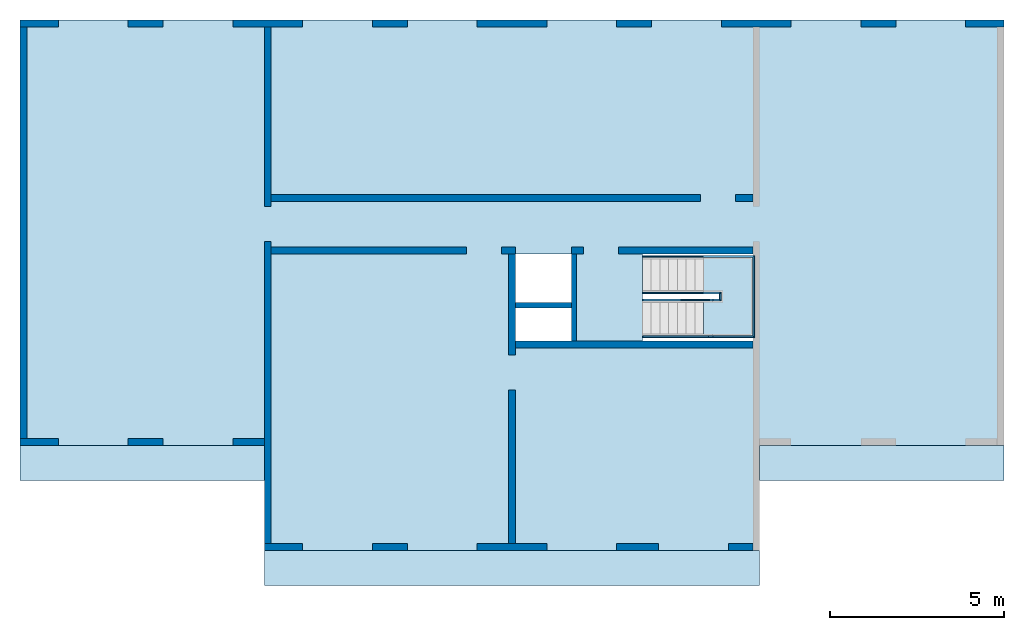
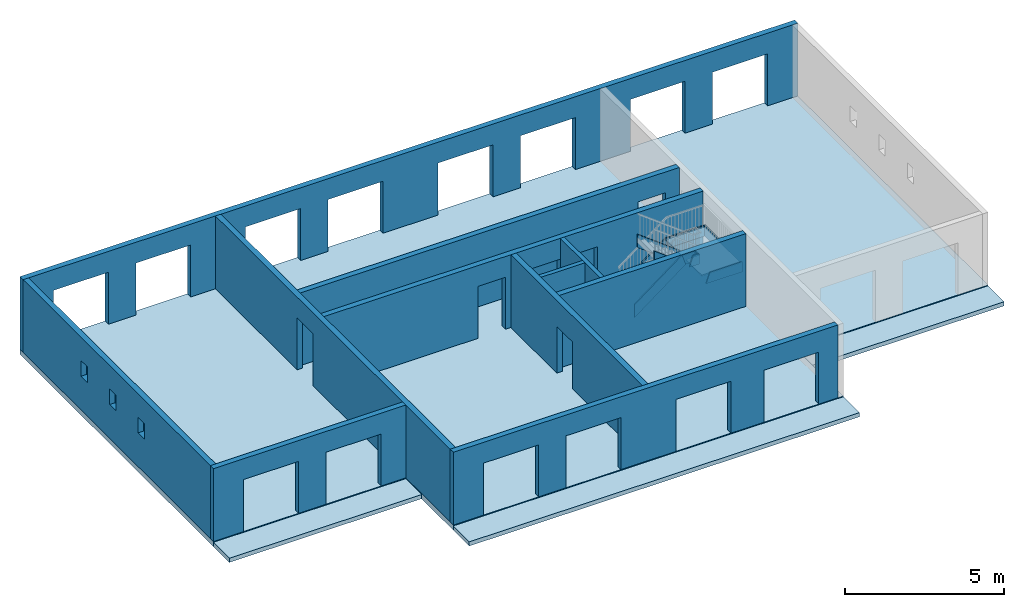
# One storey, part 1 of 3: 11 walls, 10 members, 3 slabs, 26 openings, 1 element without a shape of its own.
"""IFC2X3 building model written with IfcOpenShell, lengths in metres."""

from ifc_helpers import new_model, entity, si_unit, converted_unit, derived_unit, direction, frame, frame_2d, origin, origin_2d_with_axis, place, context, subcontext, project, spatial, polyline, rectangle, outline, extrude, faceted_brep, material, layer, layer_set, layer_usage, type_object, element, aggregate, save


model = new_model("IFC2X3")

# Units and contexts
model_context = context("Model", 3, precision=1e-05, world=origin(), true_north=direction((6.12303176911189e-17, 1.0)))
body_context = subcontext(model_context, "Body", "Model", "MODEL_VIEW")
ifc_project = project(units=[si_unit("LENGTHUNIT", "METRE"), si_unit("AREAUNIT", "SQUARE_METRE"), si_unit("VOLUMEUNIT", "CUBIC_METRE"), converted_unit("PLANEANGLEUNIT", "DEGREE", entity("IfcRatioMeasure", 0.0174532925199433), si_unit("PLANEANGLEUNIT", "RADIAN"), dimensions=[0, 0, 0, 0, 0, 0, 0]), si_unit("MASSUNIT", "GRAM", prefix="KILO"), derived_unit("MASSDENSITYUNIT", [(si_unit("MASSUNIT", "GRAM", prefix="KILO"), 1), (si_unit("LENGTHUNIT", "METRE"), -3)]), si_unit("TIMEUNIT", "SECOND"), si_unit("FREQUENCYUNIT", "HERTZ"), si_unit("THERMODYNAMICTEMPERATUREUNIT", "DEGREE_CELSIUS"), derived_unit("THERMALTRANSMITTANCEUNIT", [(si_unit("MASSUNIT", "GRAM", prefix="KILO"), 1), (si_unit("THERMODYNAMICTEMPERATUREUNIT", "KELVIN"), -1), (si_unit("TIMEUNIT", "SECOND"), -3)]), derived_unit("VOLUMETRICFLOWRATEUNIT", [(si_unit("LENGTHUNIT", "METRE"), 3), (si_unit("TIMEUNIT", "SECOND"), -1)]), si_unit("ELECTRICCURRENTUNIT", "AMPERE"), si_unit("ELECTRICVOLTAGEUNIT", "VOLT"), si_unit("POWERUNIT", "WATT"), si_unit("FORCEUNIT", "NEWTON"), si_unit("ILLUMINANCEUNIT", "LUX"), si_unit("LUMINOUSFLUXUNIT", "LUMEN"), si_unit("LUMINOUSINTENSITYUNIT", "CANDELA"), derived_unit("USERDEFINED", [(si_unit("MASSUNIT", "GRAM", prefix="KILO"), -1), (si_unit("LENGTHUNIT", "METRE"), -2), (si_unit("TIMEUNIT", "SECOND"), 3), (si_unit("LUMINOUSFLUXUNIT", "LUMEN"), 1)]), derived_unit("LINEARVELOCITYUNIT", [(si_unit("LENGTHUNIT", "METRE"), 1), (si_unit("TIMEUNIT", "SECOND"), -1)]), si_unit("PRESSUREUNIT", "PASCAL"), derived_unit("USERDEFINED", [(si_unit("LENGTHUNIT", "METRE"), -2), (si_unit("MASSUNIT", "GRAM", prefix="KILO"), 1), (si_unit("TIMEUNIT", "SECOND"), -2)])], contexts=[model_context])

# Site, building, storey
site_placement = place(None, origin())
site = spatial("IfcSite", under=ifc_project, at=site_placement, Name="Default", CompositionType="ELEMENT")
building_placement = place(site_placement, origin())
building = spatial("IfcBuilding", under=site, at=building_placement, CompositionType="ELEMENT")
storey_placement = place(building_placement, frame((0.0, 0.0, 9.0)))
storey = spatial("IfcBuildingStorey", under=building, at=storey_placement, Name="R+3", CompositionType="ELEMENT", Elevation=8.99999999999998)

# Stair, members
stair_placement = place(storey_placement, origin())
stair = element("IfcStair", 1, at=stair_placement, inside=storey, Name="Escalier assemblé:Escalier", ObjectType="Escalier assemblé:Contremarche 190 mm max marche 250\xa0mm", ShapeType="NOTDEFINED")
member_type = type_object("IfcMemberType", Name="Limon à la française:Limon à la française - 50 mm de largeur", PredefinedType="STRINGER")
member_1_placement = place(stair_placement, origin())
member_1 = element("IfcMember", 2, at=member_1_placement, type_object=member_type, Name="Escalier assemblé:Escalier:468213 Stringer 1", ObjectType="Escalier assemblé:Contremarche 190 mm max marche 250\xa0mm", context=body_context, shape_type="SweptSolid", body=[
    extrude(outline(polyline([(-0.973212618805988, -0.200000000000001), (1.19067644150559, -0.200000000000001), (1.0569252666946, 0.199999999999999), (-1.27438908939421, 0.2), (-0.973212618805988, -0.200000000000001)])), frame((6.43043564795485, 2.2618101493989, 0.853112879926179), z_axis=(0.0, 1.0, 0.0), x_axis=(0.798870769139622, 0.0, 0.601502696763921)), (0.0, 0.0, 1.0), 0.05),
])
member_2_placement = place(stair_placement, origin())
member_2 = element("IfcMember", 3, at=member_2_placement, type_object=member_type, Name="Escalier assemblé:Escalier:468213 Stringer 2", ObjectType="Escalier assemblé:Contremarche 190 mm max marche 250\xa0mm", context=body_context, shape_type="SweptSolid", body=[
    extrude(outline(polyline([(-0.973212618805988, -0.2), (1.19067644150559, -0.2), (1.05692526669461, 0.2), (-1.27438908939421, 0.2), (-0.973212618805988, -0.2)])), frame((6.43043564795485, 1.2118101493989, 0.853112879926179), z_axis=(0.0, 1.0, 0.0), x_axis=(0.798870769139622, 0.0, 0.601502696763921)), (0.0, 0.0, 1.0), 0.0500000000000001),
])
member_3_placement = place(stair_placement, origin())
member_3 = element("IfcMember", 4, at=member_3_placement, type_object=member_type, Name="Escalier assemblé:Escalier:468213 Stringer 3", ObjectType="Escalier assemblé:Contremarche 190 mm max marche 250\xa0mm", context=body_context, shape_type="SweptSolid", body=[
    extrude(outline(polyline([(-1.2901377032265, -0.2), (1.0726738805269, -0.200000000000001), (1.37385035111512, 0.199999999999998), (-1.15638652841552, 0.199999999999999), (-1.2901377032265, -0.2)])), frame((6.50989234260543, -0.0381898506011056, 2.26487758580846), z_axis=(0.0, 1.0, 0.0), x_axis=(-0.798870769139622, 0.0, 0.60150269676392)), (0.0, 0.0, 1.0), 0.05),
])
member_4_placement = place(stair_placement, origin())
member_4 = element("IfcMember", 5, at=member_4_placement, type_object=member_type, Name="Escalier assemblé:Escalier:468213 Stringer 4", ObjectType="Escalier assemblé:Contremarche 190 mm max marche 250\xa0mm", context=body_context, shape_type="SweptSolid", body=[
    extrude(outline(polyline([(-1.2901377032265, -0.2), (1.0726738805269, -0.200000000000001), (1.37385035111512, 0.199999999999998), (-1.15638652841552, 0.199999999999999), (-1.2901377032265, -0.2)])), frame((6.50989234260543, 1.01181014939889, 2.26487758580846), z_axis=(0.0, 1.0, 0.0), x_axis=(-0.798870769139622, 0.0, 0.60150269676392)), (0.0, 0.0, 1.0), 0.05),
])
member_5_placement = place(stair_placement, frame((7.42024510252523, -0.0381898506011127, 1.32908212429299)))
member_5 = element("IfcMember", 6, at=member_5_placement, type_object=member_type, Name="Escalier assemblé:Escalier:468213 Stringer 5", ObjectType="Escalier assemblé:Contremarche 190 mm max marche 250\xa0mm", context=body_context, shape_type="Brep", body=[
    faceted_brep([(0.133751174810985, 0.0500000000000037, 0.4), (0.133751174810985, 0.0, 0.4), (1.32241889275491, 0.0, 0.4), (1.27241889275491, 0.0500000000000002, 0.4), (0.0, 0.0500000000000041, 0.0), (1.27241889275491, 0.0500000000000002, 0.0), (0.0, 0.0, 0.0), (1.32241889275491, 0.0, 0.0)], [[[0, 1, 2, 3]], [[4, 0, 3, 5]], [[6, 4, 5, 7]], [[1, 6, 7, 2]], [[1, 0, 4, 6]], [[2, 7, 5, 3]]]),
])
member_6_placement = place(stair_placement, origin())
member_6 = element("IfcMember", 7, at=member_6_placement, type_object=member_type, Name="Escalier assemblé:Escalier:468213 Stringer 6", ObjectType="Escalier assemblé:Contremarche 190 mm max marche 250\xa0mm", context=body_context, shape_type="SweptSolid", body=[
    extrude(outline(polyline([(-1.17500000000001, -0.0249999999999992), (1.17500000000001, -0.0249999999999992), (1.125, 0.0250000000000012), (-1.125, 0.0250000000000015), (-1.17500000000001, -0.0249999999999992)])), frame((8.71766399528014, 1.13681014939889, 1.32908212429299), z_axis=(0.0, 0.0, 1.0), x_axis=(0.0, 1.0, 0.0)), (0.0, 0.0, 1.0), 0.4),
])
member_7_placement = place(stair_placement, frame((7.26133171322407, 2.2618101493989, 1.32908212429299)))
member_7 = element("IfcMember", 8, at=member_7_placement, type_object=member_type, Name="Escalier assemblé:Escalier:468213 Stringer 7", ObjectType="Escalier assemblé:Contremarche 190 mm max marche 250\xa0mm", context=body_context, shape_type="Brep", body=[
    faceted_brep([(1.43133228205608, 0.0, 0.4), (1.48133228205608, 0.0499999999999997, 0.4), (0.0, 0.0500000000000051, 0.4), (0.0, 0.0, 0.4), (1.43133228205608, 0.0, 0.0), (0.133751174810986, 0.0, 0.0), (1.48133228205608, 0.0499999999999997, 0.0), (0.133751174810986, 0.0500000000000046, 0.0)], [[[0, 1, 2, 3]], [[4, 0, 3, 5]], [[6, 4, 5, 7]], [[1, 6, 7, 2]], [[1, 0, 4, 6]], [[2, 7, 5, 3]]]),
])
member_8_placement = place(stair_placement, frame((7.26133171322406, 1.2118101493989, 1.32908212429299)))
member_8 = element("IfcMember", 9, at=member_8_placement, type_object=member_type, Name="Escalier assemblé:Escalier:468213 Stringer 8", ObjectType="Escalier assemblé:Contremarche 190 mm max marche 250\xa0mm", context=body_context, shape_type="Brep", body=[
    faceted_brep([(0.0, 0.0500000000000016, 0.4), (0.0, 0.0, 0.4), (0.471332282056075, 0.0, 0.4), (0.521332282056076, 0.0499999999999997, 0.4), (0.133751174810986, 0.0500000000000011, 0.0), (0.521332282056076, 0.0499999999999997, 0.0), (0.133751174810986, 0.0, 0.0), (0.471332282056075, 0.0, 0.0)], [[[0, 1, 2, 3]], [[4, 0, 3, 5]], [[6, 4, 5, 7]], [[1, 6, 7, 2]], [[1, 0, 4, 6]], [[2, 7, 5, 3]]]),
])
member_9_placement = place(stair_placement, origin())
member_9 = element("IfcMember", 10, at=member_9_placement, type_object=member_type, Name="Escalier assemblé:Escalier:468213 Stringer 9", ObjectType="Escalier assemblé:Contremarche 190 mm max marche 250\xa0mm", context=body_context, shape_type="SweptSolid", body=[
    extrude(outline(polyline([(-0.0750000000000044, -0.0250000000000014), (0.0750000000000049, -0.0250000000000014), (0.125000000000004, 0.0249999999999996), (-0.125000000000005, 0.0249999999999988), (-0.0750000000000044, -0.0250000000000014)])), frame((7.75766399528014, 1.13681014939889, 1.32908212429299), z_axis=(0.0, 0.0, 1.0), x_axis=(0.0, -1.0, 0.0)), (0.0, 0.0, 1.0), 0.4),
])
member_10_placement = place(stair_placement, frame((7.42024510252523, 1.01181014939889, 1.32908212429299)))
member_10 = element("IfcMember", 11, at=member_10_placement, type_object=member_type, Name="Escalier assemblé:Escalier:468213 Stringer 10", ObjectType="Escalier assemblé:Contremarche 190 mm max marche 250\xa0mm", context=body_context, shape_type="Brep", body=[
    faceted_brep([(0.36241889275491, 0.0, 0.4), (0.31241889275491, 0.0500000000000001, 0.4), (0.133751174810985, 0.0500000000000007, 0.4), (0.133751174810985, 0.0, 0.4), (0.36241889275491, 0.0, 0.0), (0.0, 0.0, 0.0), (0.31241889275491, 0.0500000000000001, 0.0), (0.0, 0.0500000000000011, 0.0)], [[[0, 1, 2, 3]], [[4, 0, 3, 5]], [[6, 4, 5, 7]], [[1, 6, 7, 2]], [[1, 0, 4, 6]], [[2, 7, 5, 3]]]),
])

# Slab, openings
ifc_material_1 = material(Name="Béton - Coulé sur place - Béton20")
ifc_layer_1 = layer(ifc_material_1, 0.2)
ifc_layer_set_1 = layer_set([ifc_layer_1], Name="Sol:Dalle pleine 200 mm")
ifc_layer_usage_1 = layer_usage(ifc_layer_set_1, "AXIS3", "POSITIVE", 0.0)
slab_1_placement = place(storey_placement, frame((-12.3073360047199, -6.13818985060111, 0.0)))
slab_1 = element("IfcSlab", 12, at=slab_1_placement, inside=storey, material=ifc_layer_usage_1, Name="Sol:Dalle pleine 200 mm", ObjectType="Sol:Dalle pleine 200 mm", PredefinedType="FLOOR", context=body_context, shape_type="SweptSolid", body=[
    extrude(outline(polyline([(-14.1, 7.59999999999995), (-14.1, -4.60000000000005), (-7.1, -4.60000000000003), (-7.09999999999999, -7.60000000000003), (7.10000000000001, -7.59999999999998), (7.10000000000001, -4.59999999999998), (14.1, -4.59999999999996), (14.1, 7.60000000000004), (-14.1, 7.59999999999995)])), frame((14.1, 7.60000000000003, 0.199999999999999), z_axis=(0.0, 0.0, -1.0), x_axis=(-1.0, 0.0, 0.0)), (0.0, 0.0, 1.0), 0.2),
])
opening_1_placement = place(slab_1_placement, frame((15.0, 7.80000000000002, 0.2)))
element("IfcOpeningElement", 13, at=opening_1_placement, cuts=slab_1, Name="Sol:Dalle pleine 200 mm:2", ObjectType="Opening", context=body_context, shape_type="SweptSolid", body=[
    extrude(rectangle(XDim=1.4, YDim=1.6, at=origin_2d_with_axis()), frame((0.0, 0.0, 0.0), z_axis=(0.0, 0.0, -1.0), x_axis=(0.0, -1.0, 0.0)), (0.0, 0.0, 1.0), 0.2),
])
opening_2_placement = place(slab_1_placement, frame((15.0, 6.47500000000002, 0.2)))
element("IfcOpeningElement", 14, at=opening_2_placement, cuts=slab_1, Name="Sol:Dalle pleine 200 mm:3", ObjectType="Opening", context=body_context, shape_type="SweptSolid", body=[
    extrude(rectangle(XDim=0.95, YDim=1.6, at=origin_2d_with_axis()), frame((0.0, 0.0, 0.0), z_axis=(0.0, 0.0, -1.0), x_axis=(0.0, -1.0, 0.0)), (0.0, 0.0, 1.0), 0.2),
])
opening_3_placement = place(slab_1_placement, frame((19.42, 7.25, 0.2)))
element("IfcOpeningElement", 15, at=opening_3_placement, cuts=slab_1, Name="Sol:Dalle pleine 200 mm:4", ObjectType="Opening", context=body_context, shape_type="SweptSolid", body=[
    extrude(rectangle(XDim=3.16, YDim=2.49999999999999, at=origin_2d_with_axis()), frame((0.0, 0.0, 0.0), z_axis=(0.0, 0.0, -1.0), x_axis=(1.0, 0.0, 0.0)), (0.0, 0.0, 1.0), 0.2),
])

# Slab
ifc_layer_2 = layer(ifc_material_1, 0.16)
ifc_layer_set_2 = layer_set([ifc_layer_2], Name="Sol:Balcon 160 mm")
ifc_layer_usage_2 = layer_usage(ifc_layer_set_2, "AXIS3", "POSITIVE", 0.0)
slab_2_placement = place(storey_placement, origin())
element("IfcSlab", 16, at=slab_2_placement, inside=storey, material=ifc_layer_usage_2, Name="Sol:Balcon 160 mm", ObjectType="Sol:Balcon 160 mm", PredefinedType="FLOOR", context=body_context, shape_type="SweptSolid", body=[
    extrude(outline(polyline([(-0.0825000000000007, -0.5), (0.0874999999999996, -0.5), (0.0774999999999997, 0.5), (-0.0825000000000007, 0.5), (-0.0825000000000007, -0.5)])), frame((8.89266399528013, -3.63818985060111, 0.0824999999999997), z_axis=(1.0, 0.0, 0.0), x_axis=(0.0, 0.0, 1.0)), (0.0, 0.0, 1.0), 7.0),
    extrude(outline(polyline([(-0.0825000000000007, -0.5), (0.0874999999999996, -0.5), (0.0774999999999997, 0.5), (-0.0825000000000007, 0.5), (-0.0825000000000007, -0.5)])), frame((-12.3073360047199, -3.63818985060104, 0.0824999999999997), z_axis=(1.0, 0.0, 0.0), x_axis=(0.0, 0.0, 1.0)), (0.0, 0.0, 1.0), 7.0),
    extrude(outline(polyline([(-0.0824999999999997, -0.5), (0.0874999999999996, -0.5), (0.0774999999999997, 0.5), (-0.0824999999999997, 0.5), (-0.0824999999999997, -0.5)])), frame((-5.30733600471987, -6.63818985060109, 0.0824999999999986), z_axis=(1.0, 0.0, 0.0), x_axis=(0.0, 0.0, 1.0)), (0.0, 0.0, 1.0), 14.2),
])

slab_3_placement = place(stair_placement, origin())
slab_3 = element("IfcSlab", 17, at=slab_3_placement, Name="Escalier assemblé:Escalier:468213 Landing 1", ObjectType="Escalier assemblé:Contremarche 190 mm max marche 250\xa0mm", PredefinedType="LANDING", context=body_context, shape_type="SweptSolid", body=[
    extrude(outline(polyline([(-1.125, -0.477500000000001), (-0.125000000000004, -0.477500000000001), (-0.125000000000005, 0.0225000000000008), (0.125000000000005, 0.0225000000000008), (0.125000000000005, -0.477499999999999), (1.12500000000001, -0.477499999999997), (1.125, 0.932500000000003), (-1.12500000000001, 0.932500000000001), (-1.125, -0.477500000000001)])), frame((7.76016399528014, 1.1368101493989, 1.63235294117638), z_axis=(0.0, 0.0, 1.0), x_axis=(0.0, -1.0, 0.0)), (0.0, 0.0, 1.0), 0.0499999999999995),
])

aggregate(stair, [slab_3, member_1, member_2, member_3, member_4, member_5, member_6, member_7, member_8, member_9, member_10])

# Wall, openings
ifc_layer_3 = layer(ifc_material_1, 0.2)
ifc_layer_set_3 = layer_set([ifc_layer_3], Name="Mur de base:Générique - 200 mm")
ifc_layer_usage_3 = layer_usage(ifc_layer_set_3, "AXIS2", "NEGATIVE", 0.1)
wall_type_1 = type_object("IfcWallType", Name="Mur de base:Générique - 200 mm", PredefinedType="STANDARD", material=ifc_layer_set_3)
wall_1_placement = place(storey_placement, frame((-12.3073360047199, 8.96181014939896, 0.199999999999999)))
wall_1 = element("IfcWallStandardCase", 18, at=wall_1_placement, inside=storey, type_object=wall_type_1, material=ifc_layer_usage_3, Name="Mur de base:Générique - 200 mm", ObjectType="Mur de base:Générique - 200 mm:1044", context=body_context, shape_type="SweptSolid", body=[
    extrude(rectangle(XDim=28.2, YDim=0.2, at=frame_2d((14.1, 3.19189119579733e-16), x_axis=(-1.0, 0.0))), origin(), (0.0, 0.0, 1.0), 2.80000000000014),
])
opening_4_placement = place(wall_1_placement, frame((12.3073360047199, -8.96181014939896, -0.199999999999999)))
element("IfcOpeningElement", 19, at=opening_4_placement, cuts=wall_1, Name="Mur de base:Générique - 200 mm", ObjectType="Opening", context=body_context, shape_type="SweptSolid", body=[
    extrude(rectangle(XDim=2.0, YDim=2.0, at=origin_2d_with_axis()), frame((13.7926639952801, 7.53781014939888, 1.2), z_axis=(0.0, 1.0, 0.0), x_axis=(0.0, 0.0, -1.0)), (0.0, 0.0, 1.0), 3.048),
])
opening_5_placement = place(wall_1_placement, frame((12.3073360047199, -8.96181014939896, -0.199999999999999)))
element("IfcOpeningElement", 20, at=opening_5_placement, cuts=wall_1, Name="Mur de base:Générique - 200 mm", ObjectType="Opening", context=body_context, shape_type="SweptSolid", body=[
    extrude(rectangle(XDim=2.0, YDim=2.0, at=frame_2d((0.0, 0.0), x_axis=(0.0, 1.0))), frame((10.7926639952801, 7.33781014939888, 1.2), z_axis=(0.0, 1.0, 0.0), x_axis=(1.0, 0.0, 0.0)), (0.0, 0.0, 1.0), 3.048),
])
opening_6_placement = place(wall_1_placement, frame((12.3073360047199, -8.96181014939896, -0.199999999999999)))
element("IfcOpeningElement", 21, at=opening_6_placement, cuts=wall_1, Name="Mur de base:Générique - 200 mm", ObjectType="Opening", context=body_context, shape_type="SweptSolid", body=[
    extrude(rectangle(XDim=2.0, YDim=2.0, at=origin_2d_with_axis()), frame((-10.2073360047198, 7.53781014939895, 1.2), z_axis=(0.0, 1.0, 0.0), x_axis=(0.0, 0.0, -1.0)), (0.0, 0.0, 1.0), 3.048),
])
opening_7_placement = place(wall_1_placement, frame((12.3073360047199, -8.96181014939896, -0.199999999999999)))
element("IfcOpeningElement", 22, at=opening_7_placement, cuts=wall_1, Name="Mur de base:Générique - 200 mm", ObjectType="Opening", context=body_context, shape_type="SweptSolid", body=[
    extrude(rectangle(XDim=2.0, YDim=2.0, at=origin_2d_with_axis()), frame((-7.20733600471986, 7.53781014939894, 1.2), z_axis=(0.0, 1.0, 0.0), x_axis=(0.0, 0.0, -1.0)), (0.0, 0.0, 1.0), 3.048),
])
opening_8_placement = place(wall_1_placement, frame((12.3073360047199, -8.96181014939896, -0.199999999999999)))
element("IfcOpeningElement", 23, at=opening_8_placement, cuts=wall_1, Name="Mur de base:Générique - 200 mm", ObjectType="Opening", context=body_context, shape_type="SweptSolid", body=[
    extrude(rectangle(XDim=2.0, YDim=2.0, at=frame_2d((0.0, 2.22044604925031e-16), x_axis=(1.0, 0.0))), frame((-3.20733600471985, 7.53781014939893, 1.2), z_axis=(0.0, 1.0, 0.0), x_axis=(0.0, 0.0, -1.0)), (0.0, 0.0, 1.0), 3.048),
])
opening_9_placement = place(wall_1_placement, frame((12.3073360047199, -8.96181014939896, -0.199999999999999)))
element("IfcOpeningElement", 24, at=opening_9_placement, cuts=wall_1, Name="Mur de base:Générique - 200 mm", ObjectType="Opening", context=body_context, shape_type="SweptSolid", body=[
    extrude(rectangle(XDim=2.0, YDim=2.0, at=frame_2d((-4.9960036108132e-16, 0.0), x_axis=(0.0, 1.0))), frame((6.79266399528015, 7.3378101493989, 1.2), z_axis=(0.0, 1.0, 0.0), x_axis=(1.0, 0.0, 0.0)), (0.0, 0.0, 1.0), 3.048),
])
opening_10_placement = place(wall_1_placement, frame((12.3073360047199, -8.96181014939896, -0.199999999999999)))
element("IfcOpeningElement", 25, at=opening_10_placement, cuts=wall_1, Name="Mur de base:Générique - 200 mm", ObjectType="Opening", context=body_context, shape_type="SweptSolid", body=[
    extrude(rectangle(XDim=2.0, YDim=2.0, at=frame_2d((-2.22044604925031e-16, 0.0), x_axis=(0.0, 1.0))), frame((3.79266399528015, 7.33781014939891, 1.2), z_axis=(0.0, 1.0, 0.0), x_axis=(1.0, 0.0, 0.0)), (0.0, 0.0, 1.0), 3.048),
])
opening_11_placement = place(wall_1_placement, frame((12.3073360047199, -8.96181014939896, -0.199999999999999)))
element("IfcOpeningElement", 26, at=opening_11_placement, cuts=wall_1, Name="Mur de base:Générique - 200 mm", ObjectType="Opening", context=body_context, shape_type="SweptSolid", body=[
    extrude(rectangle(XDim=2.0, YDim=2.0, at=frame_2d((0.0, 0.0), x_axis=(0.0, 1.0))), frame((-0.207336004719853, 7.33781014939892, 1.2), z_axis=(0.0, 1.0, 0.0), x_axis=(1.0, 0.0, 0.0)), (0.0, 0.0, 1.0), 3.048),
])

ifc_layer_usage_4 = layer_usage(ifc_layer_set_3, "AXIS2", "NEGATIVE", 0.1)
wall_2_placement = place(storey_placement, frame((8.69266399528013, -6.03818985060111, 0.199999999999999), z_axis=(0.0, 0.0, 1.0), x_axis=(-1.0, 0.0, 0.0)))
wall_2 = element("IfcWallStandardCase", 27, at=wall_2_placement, inside=storey, type_object=wall_type_1, material=ifc_layer_usage_4, Name="Mur de base:Générique - 200 mm", ObjectType="Mur de base:Générique - 200 mm:1044", context=body_context, shape_type="SweptSolid", body=[
    extrude(rectangle(XDim=14.0, YDim=0.2, at=frame_2d((7.0, 0.0), x_axis=(-1.0, 0.0))), origin(), (0.0, 0.0, 1.0), 2.80000000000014),
])
opening_12_placement = place(wall_2_placement, frame((8.69266399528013, -6.03818985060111, -0.199999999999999), z_axis=(0.0, 0.0, 1.0), x_axis=(-1.0, 0.0, 0.0)))
element("IfcOpeningElement", 28, at=opening_12_placement, cuts=wall_2, Name="Mur de base:Générique - 200 mm", ObjectType="Opening", context=body_context, shape_type="SweptSolid", body=[
    extrude(rectangle(XDim=2.0, YDim=2.0, at=frame_2d((0.0, 1.11022302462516e-16), x_axis=(1.0, 0.0))), frame((-3.20733600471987, -4.61418985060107, 1.2), z_axis=(0.0, -1.0, 0.0), x_axis=(0.0, 0.0, -1.0)), (0.0, 0.0, 1.0), 3.048),
])
opening_13_placement = place(wall_2_placement, frame((8.69266399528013, -6.03818985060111, -0.199999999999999), z_axis=(0.0, 0.0, 1.0), x_axis=(-1.0, 0.0, 0.0)))
element("IfcOpeningElement", 29, at=opening_13_placement, cuts=wall_2, Name="Mur de base:Générique - 200 mm", ObjectType="Opening", context=body_context, shape_type="SweptSolid", body=[
    extrude(rectangle(XDim=2.0, YDim=2.0, at=origin_2d_with_axis()), frame((-0.207336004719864, -4.61418985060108, 1.2), z_axis=(0.0, -1.0, 0.0), x_axis=(0.0, 0.0, -1.0)), (0.0, 0.0, 1.0), 3.048),
])
opening_14_placement = place(wall_2_placement, frame((8.69266399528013, -6.03818985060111, -0.199999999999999), z_axis=(0.0, 0.0, 1.0), x_axis=(-1.0, 0.0, 0.0)))
element("IfcOpeningElement", 30, at=opening_14_placement, cuts=wall_2, Name="Mur de base:Générique - 200 mm", ObjectType="Opening", context=body_context, shape_type="SweptSolid", body=[
    extrude(rectangle(XDim=2.0, YDim=2.0, at=frame_2d((0.0, 2.22044604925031e-16), x_axis=(1.0, 0.0))), frame((3.79266399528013, -4.61418985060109, 1.2), z_axis=(0.0, -1.0, 0.0), x_axis=(0.0, 0.0, -1.0)), (0.0, 0.0, 1.0), 3.048),
])
opening_15_placement = place(wall_2_placement, frame((8.69266399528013, -6.03818985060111, -0.199999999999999), z_axis=(0.0, 0.0, 1.0), x_axis=(-1.0, 0.0, 0.0)))
element("IfcOpeningElement", 31, at=opening_15_placement, cuts=wall_2, Name="Mur de base:Générique - 200 mm", ObjectType="Opening", context=body_context, shape_type="SweptSolid", body=[
    extrude(rectangle(XDim=2.0, YDim=2.0, at=origin_2d_with_axis()), frame((6.99266399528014, -4.6141898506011, 1.2), z_axis=(0.0, -1.0, 0.0), x_axis=(0.0, 0.0, -1.0)), (0.0, 0.0, 1.0), 3.048),
])

# Wall, opening
ifc_layer_usage_5 = layer_usage(ifc_layer_set_3, "AXIS2", "NEGATIVE", 0.1)
wall_3_placement = place(storey_placement, frame((-5.20733600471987, -5.93818985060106, 0.199999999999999), z_axis=(0.0, 0.0, 1.0), x_axis=(0.0, 1.0, 0.0)))
wall_3 = element("IfcWallStandardCase", 32, at=wall_3_placement, inside=storey, type_object=wall_type_1, material=ifc_layer_usage_5, Name="Mur de base:Générique - 200 mm", ObjectType="Mur de base:Générique - 200 mm:1044", context=body_context, shape_type="SweptSolid", body=[
    extrude(rectangle(XDim=14.8, YDim=0.2, at=frame_2d((7.4, -1.66533453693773e-16), x_axis=(-1.0, 0.0))), origin(), (0.0, 0.0, 1.0), 2.80000000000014),
])
opening_16_placement = place(wall_3_placement, frame((5.93818985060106, -5.20733600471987, -0.199999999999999), z_axis=(0.0, 0.0, 1.0), x_axis=(0.0, -1.0, 0.0)))
element("IfcOpeningElement", 33, at=opening_16_placement, cuts=wall_3, Name="Mur de base:Générique - 200 mm", ObjectType="Opening", context=body_context, shape_type="SweptSolid", body=[
    extrude(rectangle(XDim=2.0, YDim=1.0, at=frame_2d((0.0, -2.4980018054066e-16), x_axis=(1.0, 0.0))), frame((-3.78333600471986, 3.21181014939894, 1.2), z_axis=(-1.0, 0.0, 0.0), x_axis=(0.0, 0.0, -1.0)), (0.0, 0.0, 1.0), 3.048),
])

# Wall, openings
ifc_layer_usage_6 = layer_usage(ifc_layer_set_3, "AXIS2", "NEGATIVE", 0.1)
wall_4_placement = place(storey_placement, frame((-5.30733600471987, -3.03818985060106, 0.199999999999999), z_axis=(0.0, 0.0, 1.0), x_axis=(-1.0, 0.0, 0.0)))
wall_4 = element("IfcWallStandardCase", 34, at=wall_4_placement, inside=storey, type_object=wall_type_1, material=ifc_layer_usage_6, Name="Mur de base:Générique - 200 mm", ObjectType="Mur de base:Générique - 200 mm:1044", context=body_context, shape_type="SweptSolid", body=[
    extrude(rectangle(XDim=7.0, YDim=0.2, at=frame_2d((3.5, 0.0), x_axis=(-1.0, 0.0))), origin(), (0.0, 0.0, 1.0), 2.80000000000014),
])
opening_17_placement = place(wall_4_placement, frame((-5.30733600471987, -3.03818985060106, -0.199999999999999), z_axis=(0.0, 0.0, 1.0), x_axis=(-1.0, 0.0, 0.0)))
element("IfcOpeningElement", 35, at=opening_17_placement, cuts=wall_4, Name="Mur de base:Générique - 200 mm", ObjectType="Opening", context=body_context, shape_type="SweptSolid", body=[
    extrude(rectangle(XDim=2.0, YDim=2.0, at=frame_2d((1.0547118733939e-15, 0.0), x_axis=(0.0, 1.0))), frame((-10.2073360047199, -1.41418985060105, 1.2), z_axis=(0.0, -1.0, 0.0), x_axis=(-1.0, 0.0, 0.0)), (0.0, 0.0, 1.0), 3.048),
])
opening_18_placement = place(wall_4_placement, frame((-5.30733600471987, -3.03818985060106, -0.199999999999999), z_axis=(0.0, 0.0, 1.0), x_axis=(-1.0, 0.0, 0.0)))
element("IfcOpeningElement", 36, at=opening_18_placement, cuts=wall_4, Name="Mur de base:Générique - 200 mm", ObjectType="Opening", context=body_context, shape_type="SweptSolid", body=[
    extrude(rectangle(XDim=2.0, YDim=2.0, at=frame_2d((-4.9960036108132e-16, 0.0), x_axis=(0.0, 1.0))), frame((-7.20733600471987, -1.41418985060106, 1.2), z_axis=(0.0, -1.0, 0.0), x_axis=(-1.0, 0.0, 0.0)), (0.0, 0.0, 1.0), 3.048),
])

ifc_layer_usage_7 = layer_usage(ifc_layer_set_3, "AXIS2", "NEGATIVE", 0.1)
wall_5_placement = place(storey_placement, frame((-12.2073360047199, -2.93818985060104, 0.199999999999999), z_axis=(0.0, 0.0, 1.0), x_axis=(0.0, 1.0, 0.0)))
wall_5 = element("IfcWallStandardCase", 37, at=wall_5_placement, inside=storey, type_object=wall_type_1, material=ifc_layer_usage_7, Name="Mur de base:Générique - 200 mm", ObjectType="Mur de base:Générique - 200 mm:1044", context=body_context, shape_type="SweptSolid", body=[
    extrude(rectangle(XDim=11.8, YDim=0.199999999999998, at=frame_2d((5.9, -1.59594559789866e-16), x_axis=(-1.0, 0.0))), origin(), (0.0, 0.0, 1.0), 2.80000000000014),
])
opening_19_placement = place(wall_5_placement, frame((2.93818985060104, -12.2073360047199, -0.199999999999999), z_axis=(0.0, 0.0, 1.0), x_axis=(0.0, -1.0, 0.0)))
element("IfcOpeningElement", 38, at=opening_19_placement, cuts=wall_5, Name="Mur de base:Générique - 200 mm", ObjectType="Opening", context=body_context, shape_type="SweptSolid", body=[
    extrude(rectangle(XDim=0.6, YDim=0.4, at=frame_2d((-1.08246744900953e-15, 0.0), x_axis=(1.0, 0.0))), frame((-10.7833360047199, 3.21181014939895, 1.8), z_axis=(-1.0, 0.0, 0.0), x_axis=(0.0, 0.0, -1.0)), (0.0, 0.0, 1.0), 3.048),
])
opening_20_placement = place(wall_5_placement, frame((2.93818985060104, -12.2073360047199, -0.199999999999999), z_axis=(0.0, 0.0, 1.0), x_axis=(0.0, -1.0, 0.0)))
element("IfcOpeningElement", 39, at=opening_20_placement, cuts=wall_5, Name="Mur de base:Générique - 200 mm", ObjectType="Opening", context=body_context, shape_type="SweptSolid", body=[
    extrude(rectangle(XDim=0.6, YDim=0.400000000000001, at=frame_2d((-1.08246744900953e-15, 2.77555756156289e-16), x_axis=(1.0, 0.0))), frame((-10.7833360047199, 5.01181014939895, 1.8), z_axis=(-1.0, 0.0, 0.0), x_axis=(0.0, 0.0, -1.0)), (0.0, 0.0, 1.0), 3.048),
])
opening_21_placement = place(wall_5_placement, frame((2.93818985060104, -12.2073360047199, -0.199999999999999), z_axis=(0.0, 0.0, 1.0), x_axis=(0.0, -1.0, 0.0)))
element("IfcOpeningElement", 40, at=opening_21_placement, cuts=wall_5, Name="Mur de base:Générique - 200 mm", ObjectType="Opening", context=body_context, shape_type="SweptSolid", body=[
    extrude(rectangle(XDim=0.6, YDim=0.4, at=frame_2d((-1.08246744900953e-15, -6.93889390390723e-17), x_axis=(1.0, 0.0))), frame((-10.7833360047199, 1.41181014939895, 1.8), z_axis=(-1.0, 0.0, 0.0), x_axis=(0.0, 0.0, -1.0)), (0.0, 0.0, 1.0), 3.048),
])

# Wall, opening
ifc_layer_usage_8 = layer_usage(ifc_layer_set_3, "AXIS2", "NEGATIVE", 0.1)
wall_6_placement = place(storey_placement, frame((-5.10733600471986, 3.96181014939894, 0.199999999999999)))
wall_6 = element("IfcWallStandardCase", 41, at=wall_6_placement, inside=storey, type_object=wall_type_1, material=ifc_layer_usage_8, Name="Mur de base:Générique - 200 mm", ObjectType="Mur de base:Générique - 200 mm:1044", context=body_context, shape_type="SweptSolid", body=[
    extrude(rectangle(XDim=13.8, YDim=0.2, at=frame_2d((6.9, 2.22044604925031e-16), x_axis=(-1.0, 0.0))), origin(), (0.0, 0.0, 1.0), 2.80000000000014),
])
opening_22_placement = place(wall_6_placement, frame((5.10733600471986, -3.96181014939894, -0.199999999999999)))
element("IfcOpeningElement", 42, at=opening_22_placement, cuts=wall_6, Name="Mur de base:Générique - 200 mm", ObjectType="Opening", context=body_context, shape_type="SweptSolid", body=[
    extrude(rectangle(XDim=2.0, YDim=1.0, at=frame_2d((0.0, 1.08246744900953e-15), x_axis=(1.0, 0.0))), frame((7.69266399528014, 2.5378101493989, 1.2), z_axis=(0.0, 1.0, 0.0), x_axis=(0.0, 0.0, -1.0)), (0.0, 0.0, 1.0), 3.048),
])

# Wall, openings
ifc_layer_usage_9 = layer_usage(ifc_layer_set_3, "AXIS2", "NEGATIVE", 0.1)
wall_7_placement = place(storey_placement, frame((8.69266399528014, 2.46181014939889, 0.199999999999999), z_axis=(0.0, 0.0, 1.0), x_axis=(-1.0, 0.0, 0.0)))
wall_7 = element("IfcWallStandardCase", 43, at=wall_7_placement, inside=storey, type_object=wall_type_1, material=ifc_layer_usage_9, Name="Mur de base:Générique - 200 mm", ObjectType="Mur de base:Générique - 200 mm:1044", context=body_context, shape_type="SweptSolid", body=[
    extrude(rectangle(XDim=13.8, YDim=0.2, at=frame_2d((6.9, 8.32667268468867e-17), x_axis=(-1.0, 0.0))), origin(), (0.0, 0.0, 1.0), 2.80000000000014),
])
opening_23_placement = place(wall_7_placement, frame((8.69266399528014, 2.46181014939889, -0.199999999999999), z_axis=(0.0, 0.0, 1.0), x_axis=(-1.0, 0.0, 0.0)))
element("IfcOpeningElement", 44, at=opening_23_placement, cuts=wall_7, Name="Mur de base:Générique - 200 mm", ObjectType="Opening", context=body_context, shape_type="SweptSolid", body=[
    extrude(rectangle(XDim=2.0, YDim=1.0, at=frame_2d((0.0, 0.0), x_axis=(0.0, 1.0))), frame((0.992663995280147, 4.08581014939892, 1.2), z_axis=(0.0, -1.0, 0.0), x_axis=(-1.0, 0.0, 0.0)), (0.0, 0.0, 1.0), 3.048),
])
opening_24_placement = place(wall_7_placement, frame((8.69266399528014, 2.46181014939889, -0.199999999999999), z_axis=(0.0, 0.0, 1.0), x_axis=(-1.0, 0.0, 0.0)))
element("IfcOpeningElement", 45, at=opening_24_placement, cuts=wall_7, Name="Mur de base:Générique - 200 mm", ObjectType="Opening", context=body_context, shape_type="SweptSolid", body=[
    extrude(rectangle(XDim=2.0, YDim=1.0, at=frame_2d((0.0, 2.4980018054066e-16), x_axis=(1.0, 0.0))), frame((4.34266399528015, 3.88581014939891, 1.2), z_axis=(0.0, -1.0, 0.0), x_axis=(0.0, 0.0, -1.0)), (0.0, 0.0, 1.0), 3.048),
])
opening_25_placement = place(wall_7_placement, frame((8.69266399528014, 2.46181014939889, -0.199999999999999), z_axis=(0.0, 0.0, 1.0), x_axis=(-1.0, 0.0, 0.0)))
element("IfcOpeningElement", 46, at=opening_25_placement, cuts=wall_7, Name="Mur de base:Générique - 200 mm", ObjectType="Opening", context=body_context, shape_type="SweptSolid", body=[
    extrude(rectangle(XDim=2.0, YDim=1.6, at=frame_2d((0.0, 1.11022302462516e-16), x_axis=(1.0, 0.0))), frame((2.69266399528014, 3.88581014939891, 1.2), z_axis=(0.0, -1.0, 0.0), x_axis=(0.0, 0.0, -1.0)), (0.0, 0.0, 1.0), 3.048),
])

# Wall, opening
ifc_layer_usage_10 = layer_usage(ifc_layer_set_3, "AXIS2", "NEGATIVE", 0.1)
wall_8_placement = place(storey_placement, frame((1.79266399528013, -5.93818985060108, 0.199999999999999), z_axis=(0.0, 0.0, 1.0), x_axis=(0.0, 1.0, 0.0)))
wall_8 = element("IfcWallStandardCase", 47, at=wall_8_placement, inside=storey, type_object=wall_type_1, material=ifc_layer_usage_10, Name="Mur de base:Générique - 200 mm", ObjectType="Mur de base:Générique - 200 mm:1044", context=body_context, shape_type="SweptSolid", body=[
    extrude(rectangle(XDim=8.3, YDim=0.2, at=frame_2d((4.15, 1.11022302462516e-16), x_axis=(-1.0, 0.0))), origin(), (0.0, 0.0, 1.0), 2.80000000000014),
])
opening_26_placement = place(wall_8_placement, frame((5.93818985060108, 1.79266399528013, -0.199999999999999), z_axis=(0.0, 0.0, 1.0), x_axis=(0.0, -1.0, 0.0)))
element("IfcOpeningElement", 48, at=opening_26_placement, cuts=wall_8, Name="Mur de base:Générique - 200 mm", ObjectType="Opening", context=body_context, shape_type="SweptSolid", body=[
    extrude(rectangle(XDim=2.0, YDim=1.0, at=frame_2d((0.0, 0.0), x_axis=(0.0, 1.0))), frame((3.41666399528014, -1.03818985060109, 1.0), z_axis=(-1.0, 0.0, 0.0), x_axis=(0.0, 1.0, 0.0)), (0.0, 0.0, 1.0), 3.048),
])

# Walls
ifc_layer_usage_11 = layer_usage(ifc_layer_set_3, "AXIS2", "NEGATIVE", 0.1)
wall_9_placement = place(storey_placement, frame((1.89266399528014, -0.238189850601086, 0.199999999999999)))
element("IfcWallStandardCase", 49, at=wall_9_placement, inside=storey, type_object=wall_type_1, material=ifc_layer_usage_11, Name="Mur de base:Générique - 200 mm", ObjectType="Mur de base:Générique - 200 mm:1044", context=body_context, shape_type="SweptSolid", body=[
    extrude(rectangle(XDim=6.8, YDim=0.2, at=frame_2d((3.4, 2.08166817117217e-17), x_axis=(-1.0, 0.0))), origin(), (0.0, 0.0, 1.0), 2.80000000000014),
])
ifc_material_2 = material(Name="Blocs béton manufacturés")
ifc_layer_4 = layer(ifc_material_2, 0.15)
ifc_layer_set_4 = layer_set([ifc_layer_4], Name="Mur de base:Générique - 150 mm")
ifc_layer_usage_12 = layer_usage(ifc_layer_set_4, "AXIS2", "NEGATIVE", 0.075)
wall_type_2 = type_object("IfcWallType", Name="Mur de base:Générique - 150 mm", PredefinedType="STANDARD", material=ifc_layer_set_4)
wall_10_placement = place(storey_placement, frame((3.56766399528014, 2.36181014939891, 0.199999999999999), z_axis=(0.0, 0.0, 1.0), x_axis=(0.0, -1.0, 0.0)))
element("IfcWallStandardCase", 50, at=wall_10_placement, inside=storey, type_object=wall_type_2, material=ifc_layer_usage_12, Name="Mur de base:Générique - 150 mm", ObjectType="Mur de base:Générique - 150 mm", context=body_context, shape_type="SweptSolid", body=[
    extrude(rectangle(XDim=2.5, YDim=0.149999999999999, at=frame_2d((1.25, -1.59594559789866e-16), x_axis=(-1.0, 0.0))), origin(), (0.0, 0.0, 1.0), 2.80000000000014),
])
ifc_layer_usage_13 = layer_usage(ifc_layer_set_4, "AXIS2", "NEGATIVE", 0.075)
wall_11_placement = place(storey_placement, frame((1.89266399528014, 0.886810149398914, 0.0)))
element("IfcWallStandardCase", 51, at=wall_11_placement, inside=storey, type_object=wall_type_2, material=ifc_layer_usage_13, Name="Mur de base:Générique - 150 mm", ObjectType="Mur de base:Générique - 150 mm", context=body_context, shape_type="SweptSolid", body=[
    extrude(rectangle(XDim=1.6, YDim=0.15, at=frame_2d((0.8, -3.46944695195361e-17), x_axis=(-1.0, 0.0))), origin(), (0.0, 0.0, 1.0), 3.00000000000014),
])

save(model, "model.ifc")
